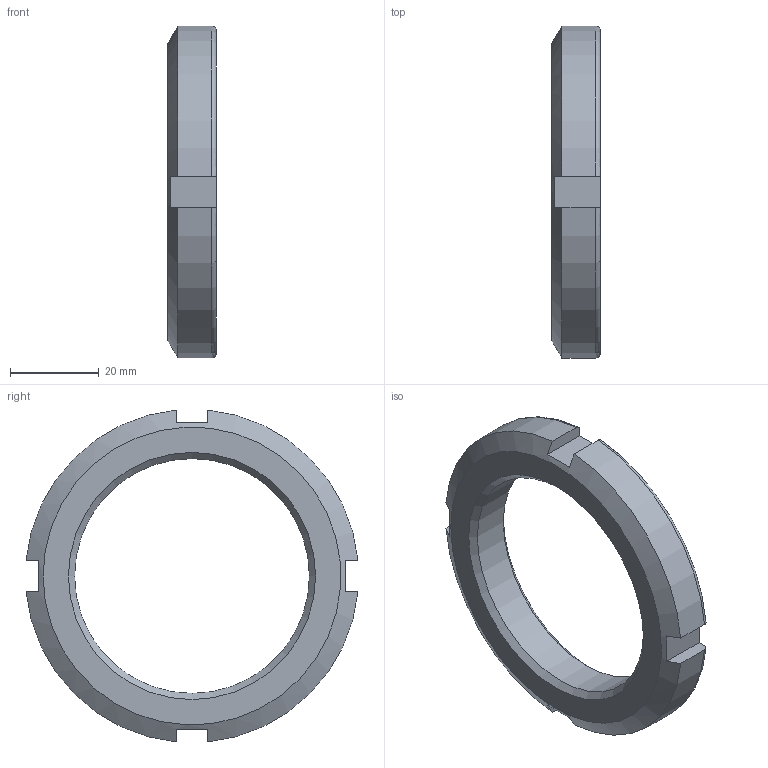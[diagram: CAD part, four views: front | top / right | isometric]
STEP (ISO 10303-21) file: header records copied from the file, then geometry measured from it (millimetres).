
FILE_DESCRIPTION(/* description */ ('Locknuts and locking devices-Dimensions - Locknuts(4 slots)'),/* implementation_level */ '2;1');
FILE_NAME(/* name */ 'D:\lock nut\LOCK NUT ISO 2982-2 - M55 x 2 x 67.stp',/* time_stamp */ '2022-04-01T13:49:44+07:00',/* author */ ('USER'),/* organization */ (''),/* preprocessor_version */ 'ST-DEVELOPER v16.1',/* originating_system */ 'Autodesk Inventor 2016',/* authorisation */ '');
FILE_SCHEMA (('AUTOMOTIVE_DESIGN { 1 0 10303 214 3 1 1 }'));
Length unit declared in the file: millimetre
Products named in the file (1): LOCK NUT ISO 2982-2 - M55 x 2 x 67
Bounding box: 11 x 74.67 x 74.67 mm (x, y, z)
Volume: 22270.3 mm3; surface area: 8184.4 mm2
Topology: 1 solids, 1 shells, 26 faces, 72 edges, 48 vertices
Faces by surface type: plane 14, cylinder 5, torus 4, cone 3
Full cylindrical faces by diameter (mm): 52.835 x1
Entity records: 858 total; most frequent: CARTESIAN_POINT 233, ORIENTED_EDGE 130, DIRECTION 116, EDGE_CURVE 65, VERTEX_POINT 45, AXIS2_PLACEMENT_3D 44, EDGE_LOOP 32, LINE 28
